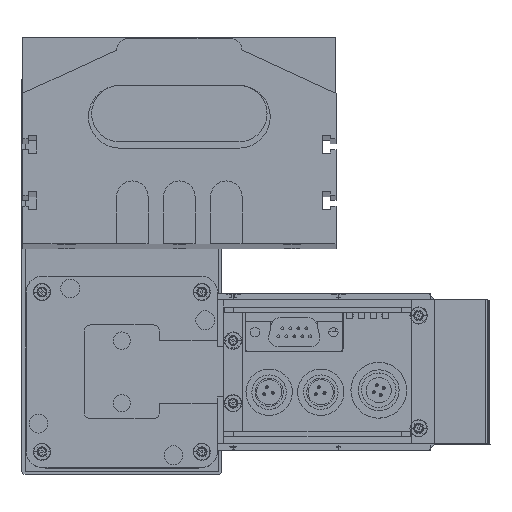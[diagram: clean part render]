
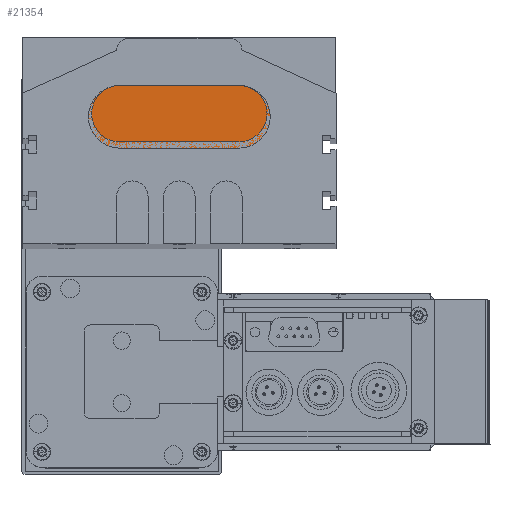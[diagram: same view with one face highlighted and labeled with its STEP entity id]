
A CAD part, top view. The second image highlights one B-rep face of the part: STEP entity #21354.
In plain terms, the highlighted planar face has unit normal (0, 0, 1).
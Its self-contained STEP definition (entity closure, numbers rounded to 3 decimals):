
#9533 = ORIENTED_EDGE ( 'NONE', *, *, #20854, .T. ) ;
#9749 = VERTEX_POINT ( 'NONE', #30447 ) ;
#9760 = EDGE_CURVE ( 'NONE', #20431, #9749, #30471, .T. ) ;
#19987 = EDGE_CURVE ( 'NONE', #19988, #20431, #34330, .T. ) ;
#19988 = VERTEX_POINT ( 'NONE', #34320 ) ;
#20431 = VERTEX_POINT ( 'NONE', #35113 ) ;
#20545 = VERTEX_POINT ( 'NONE', #35347 ) ;
#20547 = ORIENTED_EDGE ( 'NONE', *, *, #19987, .T. ) ;
#20580 = EDGE_CURVE ( 'NONE', #9749, #20767, #35433, .T. ) ;
#20767 = VERTEX_POINT ( 'NONE', #35852 ) ;
#20819 = ORIENTED_EDGE ( 'NONE', *, *, #20940, .T. ) ;
#20854 = EDGE_CURVE ( 'NONE', #20545, #19988, #35989, .T. ) ;
#20940 = EDGE_CURVE ( 'NONE', #20767, #20545, #36167, .T. ) ;
#21003 = EDGE_LOOP ( 'NONE', ( #20547, #38001, #21296, #20819, #9533 ) ) ;
#21296 = ORIENTED_EDGE ( 'NONE', *, *, #20580, .T. ) ;
#21354 = ADVANCED_FACE ( 'NONE', ( #36942 ), #36954, .T. ) ;
#30447 = CARTESIAN_POINT ( 'NONE',  ( 0., 0., 10. ) ) ;
#30465 = DIRECTION ( 'NONE',  ( 1., 0., 0. ) ) ;
#30466 = DIRECTION ( 'NONE',  ( 0., 0., 1. ) ) ;
#30467 = CARTESIAN_POINT ( 'NONE',  ( 0., 10., 10. ) ) ;
#30468 = AXIS2_PLACEMENT_3D ( 'NONE', #30467, #30466, #30465 ) ;
#30471 = CIRCLE ( 'NONE', #30468, 10. ) ;
#34320 = CARTESIAN_POINT ( 'NONE',  ( 0., 20., 10. ) ) ;
#34324 = CARTESIAN_POINT ( 'NONE',  ( 0., 10., 10. ) ) ;
#34330 = CIRCLE ( 'NONE', #34336, 10. ) ;
#34336 = AXIS2_PLACEMENT_3D ( 'NONE', #34324, #34401, #34400 ) ;
#34400 = DIRECTION ( 'NONE',  ( 1., 0., 0. ) ) ;
#34401 = DIRECTION ( 'NONE',  ( 0., 0., 1. ) ) ;
#35113 = CARTESIAN_POINT ( 'NONE',  ( -10., 10., 10. ) ) ;
#35347 = CARTESIAN_POINT ( 'NONE',  ( 38., 20., 10. ) ) ;
#35432 = CARTESIAN_POINT ( 'NONE',  ( 0., 0., 10. ) ) ;
#35433 = LINE ( 'NONE', #35432, #35486 ) ;
#35485 = DIRECTION ( 'NONE',  ( 1., 0., 0. ) ) ;
#35486 = VECTOR ( 'NONE', #35485, 1000. ) ;
#35852 = CARTESIAN_POINT ( 'NONE',  ( 38., 0., 10. ) ) ;
#35986 = DIRECTION ( 'NONE',  ( -1., 0., 0. ) ) ;
#35987 = VECTOR ( 'NONE', #35986, 1000. ) ;
#35988 = CARTESIAN_POINT ( 'NONE',  ( 0., 20., 10. ) ) ;
#35989 = LINE ( 'NONE', #35988, #35987 ) ;
#36154 = AXIS2_PLACEMENT_3D ( 'NONE', #36208, #36207, #36206 ) ;
#36167 = CIRCLE ( 'NONE', #36154, 10. ) ;
#36206 = DIRECTION ( 'NONE',  ( -1., 0., 0. ) ) ;
#36207 = DIRECTION ( 'NONE',  ( 0., 0., 1. ) ) ;
#36208 = CARTESIAN_POINT ( 'NONE',  ( 38., 10., 10. ) ) ;
#36936 = DIRECTION ( 'NONE',  ( 1., 0., 0. ) ) ;
#36937 = DIRECTION ( 'NONE',  ( 0., 0., 1. ) ) ;
#36938 = CARTESIAN_POINT ( 'NONE',  ( 0., 10., 10. ) ) ;
#36942 = FACE_OUTER_BOUND ( 'NONE', #21003, .T. ) ;
#36950 = AXIS2_PLACEMENT_3D ( 'NONE', #36938, #36937, #36936 ) ;
#36954 = PLANE ( 'NONE',  #36950 ) ;
#38001 = ORIENTED_EDGE ( 'NONE', *, *, #9760, .T. ) ;
